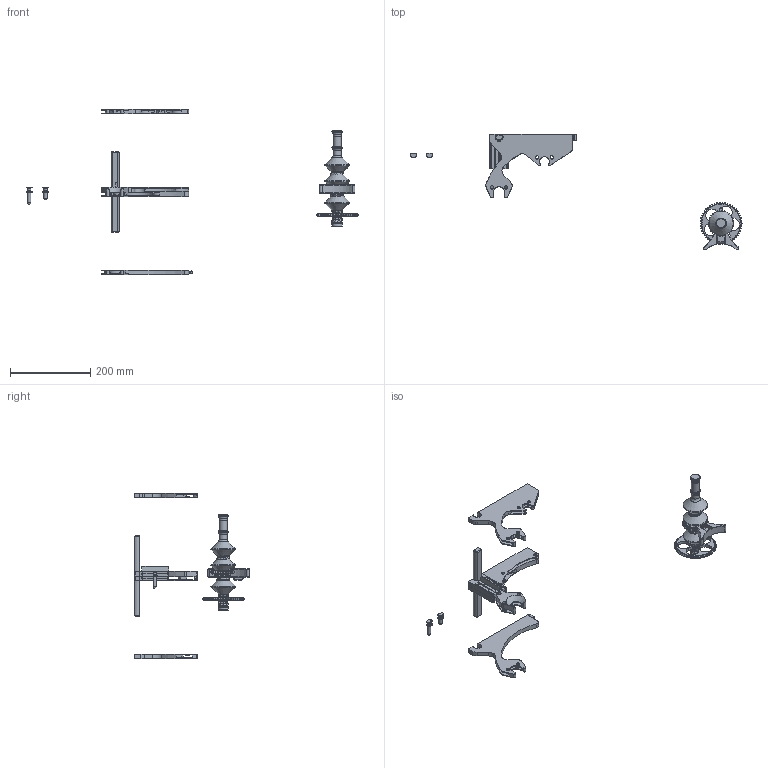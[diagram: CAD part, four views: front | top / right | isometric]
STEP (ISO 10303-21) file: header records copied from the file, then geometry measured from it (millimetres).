
FILE_DESCRIPTION(/* description */ (''),/* implementation_level */ '2;1');
FILE_NAME(/* name */ 'Respooler v223.step',/* time_stamp */ '2023-05-28T16:30:43-07:00',/* author */ (''),/* organization */ (''),/* preprocessor_version */ 'ST-DEVELOPER v19.2',/* originating_system */ 'Autodesk Translation Framework v12.4.0.73',/* authorisation */ '');
FILE_SCHEMA (('AUTOMOTIVE_DESIGN { 1 0 10303 214 3 1 1 }'));
Length unit declared in the file: millimetre
Products named in the file (6): Respooler; spur_gear_20t_7mm; double_idler; leadscrew; spindle; cradle_strut
Assembly tree (5 placements, depth 2):
  Respooler
    spur_gear_20t_7mm
    double_idler
    leadscrew
    spindle
    cradle_strut
Bounding box: 826.22 x 287.46 x 411.6 mm (x, y, z)
Volume: 833064.3 mm3; surface area: 372433 mm2
Topology: 19 solids, 19 shells, 2380 faces, 6572 edges, 4233 vertices
Faces by surface type: bspline 698, cylinder 647, plane 508, cone 474, torus 35, sphere 18
Full cylindrical faces by diameter (mm): 8.3 x24, 10 x1, 15.675 x3, 16 x2, 20 x5, 20.6 x1, 21.675 x1, 22 x2, 26 x1
Entity records: 153927 total; most frequent: CARTESIAN_POINT 98471, ORIENTED_EDGE 13140, DIRECTION 9682, EDGE_CURVE 6570, VERTEX_POINT 4233, AXIS2_PLACEMENT_3D 3667, EDGE_LOOP 2498, FACE_OUTER_BOUND 2380
